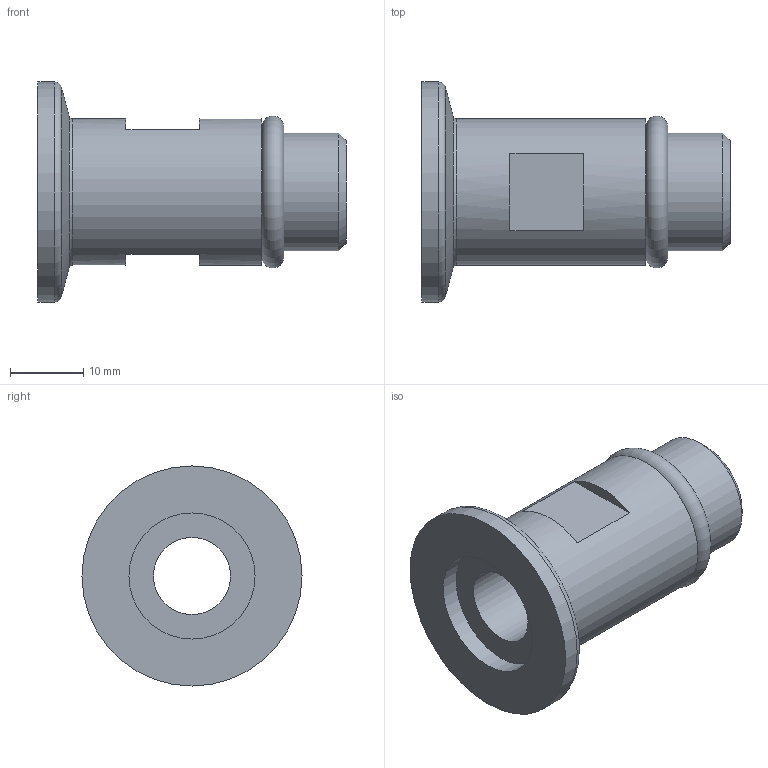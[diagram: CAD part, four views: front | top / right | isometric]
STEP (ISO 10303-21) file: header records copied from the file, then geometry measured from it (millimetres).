
FILE_DESCRIPTION((''),'2;1');
FILE_NAME('W:\M211-372.stp','2012-04-05T12:19:35',('KAA'),(''),'Autodesk Inventor 2012','Autodesk Inventor 2012','');
FILE_SCHEMA(('AUTOMOTIVE_DESIGN { 1 0 10303 214 1 1 1 1 }'));
Length unit declared in the file: millimetre
Products named in the file (1): M211-372
Bounding box: 42 x 30 x 30 mm (x, y, z)
Volume: 9355.3 mm3; surface area: 5700.1 mm2
Topology: 1 solids, 1 shells, 27 faces, 52 edges, 31 vertices
Faces by surface type: plane 11, torus 6, cylinder 6, cone 4
Full cylindrical faces by diameter (mm): 10.5 x1, 13.7 x1, 16 x1, 17.2 x1, 20 x1, 30 x1
Entity records: 649 total; most frequent: DIRECTION 114, CARTESIAN_POINT 89, ORIENTED_EDGE 66, AXIS2_PLACEMENT_3D 53, EDGE_LOOP 50, EDGE_CURVE 33, VERTEX_POINT 28, STYLED_ITEM 28
